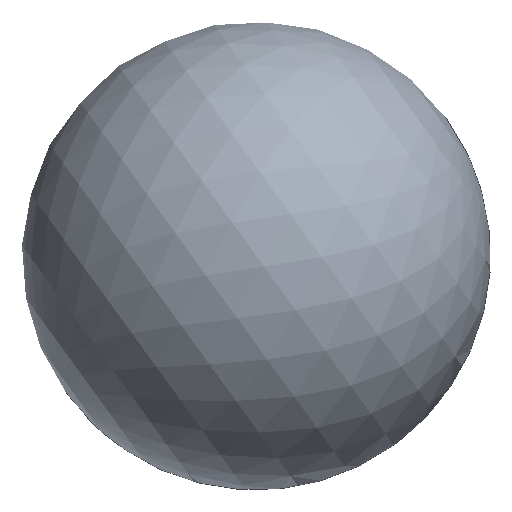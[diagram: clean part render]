
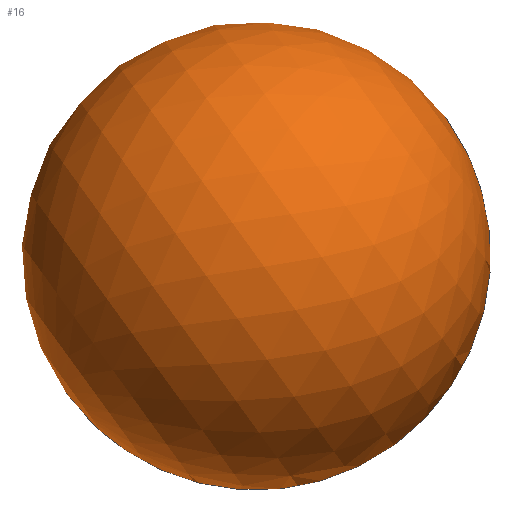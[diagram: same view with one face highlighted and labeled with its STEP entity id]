
A CAD part, front view. The second image highlights one B-rep face of the part: STEP entity #16.
In plain terms, the highlighted spherical face has radius 1.212 mm.
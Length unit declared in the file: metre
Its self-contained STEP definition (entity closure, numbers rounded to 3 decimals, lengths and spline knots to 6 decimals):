
#12=VERTEX_POINT('',#37);
#13=VERTEX_LOOP('',#12);
#14=FACE_BOUND('',#13,.T.);
#15=SPHERICAL_SURFACE('',#30,0.001212);
#16=ADVANCED_FACE('',(#14),#15,.T.);
#30=AXIS2_PLACEMENT_3D('',#36,#33,#34);
#33=DIRECTION('',(-0.809,0.,-0.588));
#34=DIRECTION('',(0.588,0.,-0.809));
#36=CARTESIAN_POINT('',(0.003086,-0.0035,-0.004247));
#37=CARTESIAN_POINT('',(0.004066,-0.0035,-0.003535));
